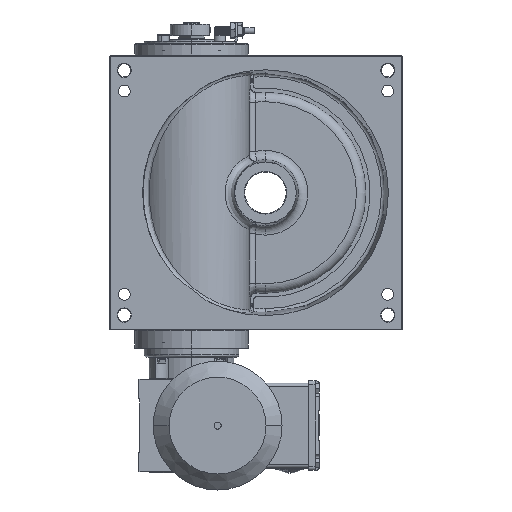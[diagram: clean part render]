
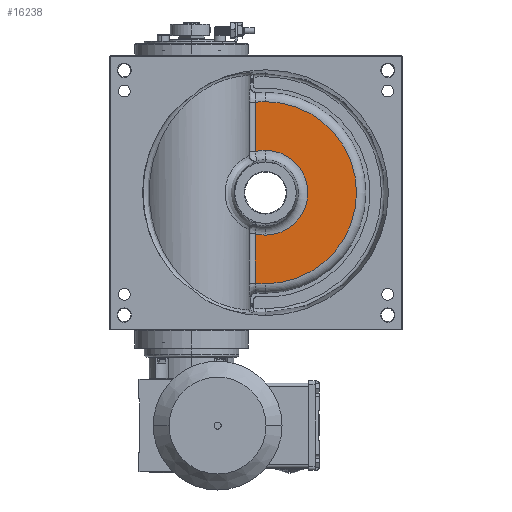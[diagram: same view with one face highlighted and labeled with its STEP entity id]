
A CAD part, front view. The second image highlights one B-rep face of the part: STEP entity #16238.
In plain terms, the highlighted planar face has unit normal (0, -1, 0).
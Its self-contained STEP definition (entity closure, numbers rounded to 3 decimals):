
#722 = AXIS2_PLACEMENT_3D ( 'NONE', #61890, #13217, #63475 ) ;
#756 = ORIENTED_EDGE ( 'NONE', *, *, #71119, .T. ) ;
#1077 = CARTESIAN_POINT ( 'NONE',  ( 0., 63.6, 0. ) ) ;
#2441 = CIRCLE ( 'NONE', #73578, 77.004 ) ;
#4607 = CIRCLE ( 'NONE', #722, 35.841 ) ;
#5117 = VERTEX_POINT ( 'NONE', #11311 ) ;
#6091 = AXIS2_PLACEMENT_3D ( 'NONE', #49785, #38392, #31554 ) ;
#8305 = CARTESIAN_POINT ( 'NONE',  ( -8.737, 63.6, -76.507 ) ) ;
#10500 = FACE_OUTER_BOUND ( 'NONE', #17158, .T. ) ;
#11003 = CARTESIAN_POINT ( 'NONE',  ( -8.737, 63.6, -34.76 ) ) ;
#11311 = CARTESIAN_POINT ( 'NONE',  ( 0., 63.6, -77.004 ) ) ;
#13217 = DIRECTION ( 'NONE',  ( 0., 1., 0. ) ) ;
#13332 = EDGE_CURVE ( 'NONE', #15442, #43071, #59154, .T. ) ;
#13994 = DIRECTION ( 'NONE',  ( 0., -1., 0. ) ) ;
#14688 = EDGE_CURVE ( 'NONE', #33837, #34269, #24214, .T. ) ;
#15161 = EDGE_CURVE ( 'NONE', #36568, #34868, #32136, .T. ) ;
#15299 = ORIENTED_EDGE ( 'NONE', *, *, #15520, .T. ) ;
#15442 = VERTEX_POINT ( 'NONE', #64068 ) ;
#15520 = EDGE_CURVE ( 'NONE', #34868, #15442, #70030, .T. ) ;
#16238 = ADVANCED_FACE ( 'NONE', ( #10500 ), #29124, .T. ) ;
#16968 = CARTESIAN_POINT ( 'NONE',  ( -8.737, 63.6, -75.8 ) ) ;
#17158 = EDGE_LOOP ( 'NONE', ( #756, #37855, #64641, #15299, #30891, #40154, #68773, #43906 ) ) ;
#17348 = DIRECTION ( 'NONE',  ( 0., -1., 0. ) ) ;
#20056 = CARTESIAN_POINT ( 'NONE',  ( 0., 63.6, 0. ) ) ;
#21547 = CARTESIAN_POINT ( 'NONE',  ( -8.737, 63.6, 76.507 ) ) ;
#21647 = VERTEX_POINT ( 'NONE', #61030 ) ;
#22391 = CARTESIAN_POINT ( 'NONE',  ( 0., 63.6, 77.004 ) ) ;
#22781 = CIRCLE ( 'NONE', #22834, 77.004 ) ;
#22834 = AXIS2_PLACEMENT_3D ( 'NONE', #36475, #31987, #56728 ) ;
#23002 = CARTESIAN_POINT ( 'NONE',  ( 0., 63.6, 0. ) ) ;
#23858 = CIRCLE ( 'NONE', #42104, 35.841 ) ;
#24214 = LINE ( 'NONE', #16968, #79907 ) ;
#29124 = PLANE ( 'NONE',  #49145 ) ;
#29962 = EDGE_CURVE ( 'NONE', #5117, #36568, #22781, .T. ) ;
#30891 = ORIENTED_EDGE ( 'NONE', *, *, #13332, .T. ) ;
#31554 = DIRECTION ( 'NONE',  ( 0., 0., -1. ) ) ;
#31987 = DIRECTION ( 'NONE',  ( 0., -1., 0. ) ) ;
#32136 = CIRCLE ( 'NONE', #72224, 77.004 ) ;
#33837 = VERTEX_POINT ( 'NONE', #11003 ) ;
#34269 = VERTEX_POINT ( 'NONE', #8305 ) ;
#34868 = VERTEX_POINT ( 'NONE', #21547 ) ;
#35472 = CARTESIAN_POINT ( 'NONE',  ( 0., 63.6, 0. ) ) ;
#36273 = EDGE_CURVE ( 'NONE', #43071, #21647, #4607, .T. ) ;
#36475 = CARTESIAN_POINT ( 'NONE',  ( 0., 63.6, 0. ) ) ;
#36568 = VERTEX_POINT ( 'NONE', #22391 ) ;
#37855 = ORIENTED_EDGE ( 'NONE', *, *, #29962, .T. ) ;
#38392 = DIRECTION ( 'NONE',  ( 0., 1., 0. ) ) ;
#40154 = ORIENTED_EDGE ( 'NONE', *, *, #36273, .T. ) ;
#42104 = AXIS2_PLACEMENT_3D ( 'NONE', #35472, #64711, #53693 ) ;
#43071 = VERTEX_POINT ( 'NONE', #62717 ) ;
#43906 = ORIENTED_EDGE ( 'NONE', *, *, #14688, .T. ) ;
#44822 = DIRECTION ( 'NONE',  ( 0., -1., 0. ) ) ;
#46067 = DIRECTION ( 'NONE',  ( 0., 0., -1. ) ) ;
#48175 = DIRECTION ( 'NONE',  ( 0., 0., -1. ) ) ;
#49145 = AXIS2_PLACEMENT_3D ( 'NONE', #23002, #17348, #56246 ) ;
#49785 = CARTESIAN_POINT ( 'NONE',  ( 0., 63.6, 0. ) ) ;
#53693 = DIRECTION ( 'NONE',  ( 0., 0., -1. ) ) ;
#56246 = DIRECTION ( 'NONE',  ( 0., 0., -1. ) ) ;
#56728 = DIRECTION ( 'NONE',  ( 0., 0., -1. ) ) ;
#57346 = DIRECTION ( 'NONE',  ( 0., 0., -1. ) ) ;
#57689 = EDGE_CURVE ( 'NONE', #21647, #33837, #23858, .T. ) ;
#58272 = CARTESIAN_POINT ( 'NONE',  ( -8.737, 63.6, 33.175 ) ) ;
#59154 = CIRCLE ( 'NONE', #6091, 35.841 ) ;
#61030 = CARTESIAN_POINT ( 'NONE',  ( 0., 63.6, -35.841 ) ) ;
#61890 = CARTESIAN_POINT ( 'NONE',  ( 0., 63.6, 0. ) ) ;
#62717 = CARTESIAN_POINT ( 'NONE',  ( 0., 63.6, 35.841 ) ) ;
#63323 = VECTOR ( 'NONE', #46067, 1000. ) ;
#63475 = DIRECTION ( 'NONE',  ( 0., 0., -1. ) ) ;
#64068 = CARTESIAN_POINT ( 'NONE',  ( -8.737, 63.6, 34.76 ) ) ;
#64641 = ORIENTED_EDGE ( 'NONE', *, *, #15161, .T. ) ;
#64711 = DIRECTION ( 'NONE',  ( 0., 1., 0. ) ) ;
#68773 = ORIENTED_EDGE ( 'NONE', *, *, #57689, .T. ) ;
#69565 = DIRECTION ( 'NONE',  ( 0., 0., -1. ) ) ;
#70030 = LINE ( 'NONE', #58272, #63323 ) ;
#71119 = EDGE_CURVE ( 'NONE', #34269, #5117, #2441, .T. ) ;
#72224 = AXIS2_PLACEMENT_3D ( 'NONE', #20056, #13994, #57346 ) ;
#73578 = AXIS2_PLACEMENT_3D ( 'NONE', #1077, #44822, #69565 ) ;
#79907 = VECTOR ( 'NONE', #48175, 1000. ) ;
